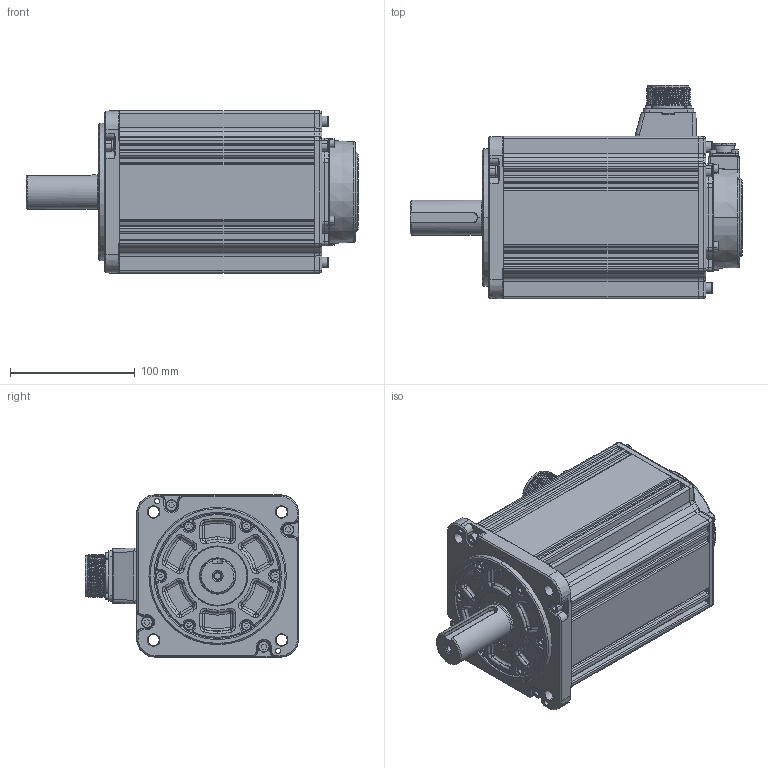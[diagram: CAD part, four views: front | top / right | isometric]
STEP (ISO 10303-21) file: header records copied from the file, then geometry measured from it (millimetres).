
FILE_DESCRIPTION (( 'STEP AP203' ), '1' );
FILE_NAME ('MS6S-130CN30B2-43P0.STEP', '2024-04-18T00:45:03', ( '' ), ( '' ), 'SwSTEP 2.0', 'SolidWorks 2022', '' );
FILE_SCHEMA (( 'CONFIG_CONTROL_DESIGN' ));
Products named in the file (1): MS6S-130CN30B2-43P0
Bounding box: 265.8 x 171.1 x 130 mm (x, y, z)
Surface area: 174201 mm2 (no closed solid volume)
Topology: 0 solids, 61 shells, 1231 faces, 4212 edges, 2969 vertices
Faces by surface type: plane 426, cylinder 336, torus 195, cone 147, bspline 119, sphere 8
Entity records: 55084 total; most frequent: CARTESIAN_POINT 20700, DIRECTION 6884, ORIENTED_EDGE 6620, EDGE_CURVE 4181, VERTEX_POINT 2969, AXIS2_PLACEMENT_3D 2553, LINE 1778, VECTOR 1778
